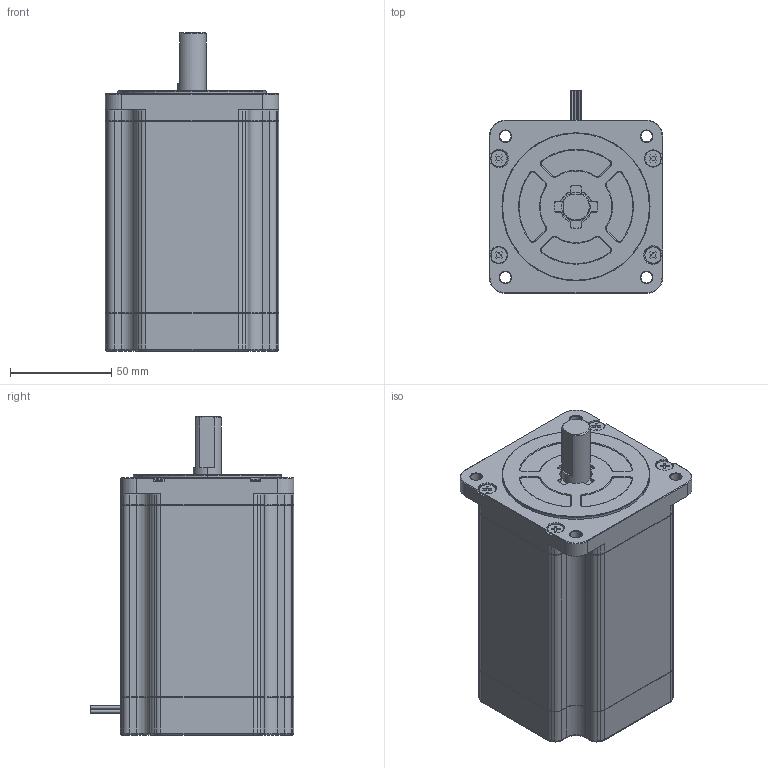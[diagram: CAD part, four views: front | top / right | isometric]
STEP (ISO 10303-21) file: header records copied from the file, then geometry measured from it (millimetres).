
FILE_DESCRIPTION (( 'STEP AP203' ), '1' );
FILE_NAME ('SH2863-0941.STEP', '2012-06-27T07:52:25', ( 'sanyodenki-admin' ), ( '' ), 'SwSTEP 2.0', 'SolidWorks 2011', '' );
FILE_SCHEMA (( 'CONFIG_CONTROL_DESIGN' ));
Length unit declared in the file: millimetre
Products named in the file (1): SH2863-0941
Bounding box: 85.5 x 100.5 x 156.9 mm (x, y, z)
Volume: 831424.2 mm3; surface area: 57195 mm2
Topology: 1 solids, 1 shells, 670 faces, 1665 edges, 1017 vertices
Faces by surface type: cylinder 246, plane 224, cone 140, torus 60
Entity records: 19943 total; most frequent: DIRECTION 3728, CARTESIAN_POINT 3413, ORIENTED_EDGE 3330, EDGE_CURVE 1665, AXIS2_PLACEMENT_3D 1412, VERTEX_POINT 1017, LINE 904, VECTOR 904
